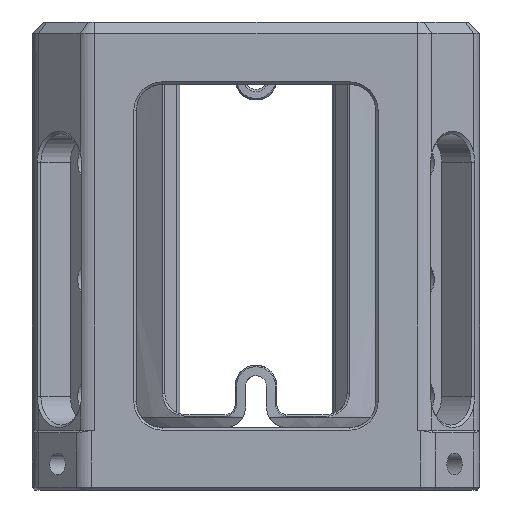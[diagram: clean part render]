
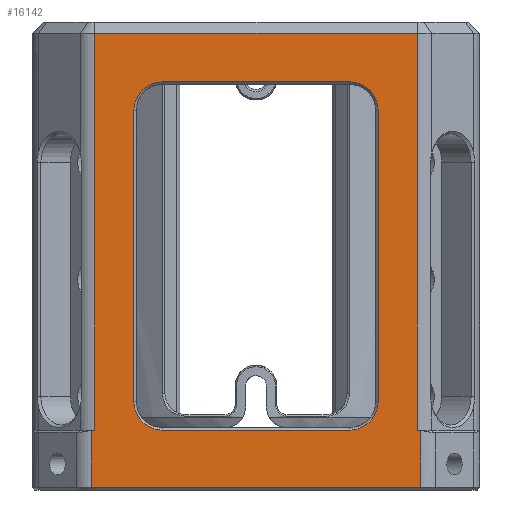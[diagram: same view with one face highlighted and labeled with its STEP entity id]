
A CAD part, left-side view. The second image highlights one B-rep face of the part: STEP entity #16142.
In plain terms, the highlighted planar face has unit normal (-1, 0, 0).
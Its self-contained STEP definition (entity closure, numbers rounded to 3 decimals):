
#30 = LINE ( 'NONE', #8312, #24721 ) ;
#765 = ORIENTED_EDGE ( 'NONE', *, *, #21148, .T. ) ;
#887 = CARTESIAN_POINT ( 'NONE',  ( -43., 31.004, -78.5 ) ) ;
#955 = CARTESIAN_POINT ( 'NONE',  ( -43., -18., -78.5 ) ) ;
#962 = VERTEX_POINT ( 'NONE', #34282 ) ;
#1241 = CARTESIAN_POINT ( 'NONE',  ( -43., -31.24, -78.5 ) ) ;
#1422 = DIRECTION ( 'NONE',  ( 1., 0., 0. ) ) ;
#1540 = DIRECTION ( 'NONE',  ( 1., 0., 0. ) ) ;
#1788 = EDGE_CURVE ( 'NONE', #8504, #31183, #30, .T. ) ;
#1792 = DIRECTION ( 'NONE',  ( 0., -1., 0. ) ) ;
#1911 = LINE ( 'NONE', #34812, #24460 ) ;
#1933 = CARTESIAN_POINT ( 'NONE',  ( -43., -31.004, -78.5 ) ) ;
#2233 = CARTESIAN_POINT ( 'NONE',  ( -43., -18., -17. ) ) ;
#2240 = CARTESIAN_POINT ( 'NONE',  ( -43., 18., -17. ) ) ;
#2445 = VERTEX_POINT ( 'NONE', #31313 ) ;
#2723 = CIRCLE ( 'NONE', #22838, 5.5 ) ;
#2805 = VECTOR ( 'NONE', #27424, 1000. ) ;
#3031 = CARTESIAN_POINT ( 'NONE',  ( -43., -31.711, -90. ) ) ;
#3350 = AXIS2_PLACEMENT_3D ( 'NONE', #15052, #1540, #9643 ) ;
#4364 = VERTEX_POINT ( 'NONE', #32753 ) ;
#4487 = PLANE ( 'NONE',  #32300 ) ;
#4998 = EDGE_CURVE ( 'NONE', #7402, #16219, #1911, .T. ) ;
#5210 = DIRECTION ( 'NONE',  ( 0., -1., 0. ) ) ;
#5593 = ORIENTED_EDGE ( 'NONE', *, *, #12194, .T. ) ;
#5714 = DIRECTION ( 'NONE',  ( 0., 0., 1. ) ) ;
#6397 = CARTESIAN_POINT ( 'NONE',  ( -43., 31.24, -78.5 ) ) ;
#7233 = CARTESIAN_POINT ( 'NONE',  ( -43., -18., -11.5 ) ) ;
#7269 = VERTEX_POINT ( 'NONE', #10762 ) ;
#7395 = B_SPLINE_CURVE_WITH_KNOTS ( 'NONE', 3,
 ( #9517, #26573, #1241, #1933 ),
 .UNSPECIFIED., .F., .F.,
 ( 4, 4 ),
 ( 0., 0.001 ),
 .UNSPECIFIED. ) ;
#7402 = VERTEX_POINT ( 'NONE', #20237 ) ;
#7632 = VECTOR ( 'NONE', #21051, 1000. ) ;
#7670 = DIRECTION ( 'NONE',  ( 0., -1., 0. ) ) ;
#7715 = VECTOR ( 'NONE', #23305, 1000. ) ;
#7966 = CARTESIAN_POINT ( 'NONE',  ( -43., 18., -78.5 ) ) ;
#8120 = ORIENTED_EDGE ( 'NONE', *, *, #31436, .F. ) ;
#8312 = CARTESIAN_POINT ( 'NONE',  ( -43., 18., -78.5 ) ) ;
#8368 = ORIENTED_EDGE ( 'NONE', *, *, #25038, .T. ) ;
#8504 = VERTEX_POINT ( 'NONE', #955 ) ;
#8746 = LINE ( 'NONE', #24752, #12286 ) ;
#8770 = CIRCLE ( 'NONE', #14535, 5.5 ) ;
#8860 = CARTESIAN_POINT ( 'NONE',  ( -43., 31.711, -89.5 ) ) ;
#8949 = ORIENTED_EDGE ( 'NONE', *, *, #23436, .T. ) ;
#9503 = VERTEX_POINT ( 'NONE', #32858 ) ;
#9517 = CARTESIAN_POINT ( 'NONE',  ( -43., -31.711, -78.562 ) ) ;
#9643 = DIRECTION ( 'NONE',  ( 0., -1., 0. ) ) ;
#9968 = ORIENTED_EDGE ( 'NONE', *, *, #17964, .T. ) ;
#10624 = DIRECTION ( 'NONE',  ( 0., 0., 1. ) ) ;
#10762 = CARTESIAN_POINT ( 'NONE',  ( -43., -31.004, -2.2 ) ) ;
#11052 = CARTESIAN_POINT ( 'NONE',  ( -43., 31.711, -90. ) ) ;
#11325 = ORIENTED_EDGE ( 'NONE', *, *, #1788, .T. ) ;
#11917 = LINE ( 'NONE', #22890, #24859 ) ;
#12088 = VERTEX_POINT ( 'NONE', #31146 ) ;
#12194 = EDGE_CURVE ( 'NONE', #31183, #962, #23714, .T. ) ;
#12286 = VECTOR ( 'NONE', #33723, 1000. ) ;
#12335 = VERTEX_POINT ( 'NONE', #16421 ) ;
#12337 = CARTESIAN_POINT ( 'NONE',  ( -43., 23.5, -17. ) ) ;
#12388 = DIRECTION ( 'NONE',  ( 0., -1., 0. ) ) ;
#12550 = CARTESIAN_POINT ( 'NONE',  ( -43., -31.711, -89.5 ) ) ;
#12759 = CARTESIAN_POINT ( 'NONE',  ( -43., -31.711, -90. ) ) ;
#12947 = FACE_OUTER_BOUND ( 'NONE', #16986, .T. ) ;
#13991 = CARTESIAN_POINT ( 'NONE',  ( -43., -31.004, -78.5 ) ) ;
#14093 = ORIENTED_EDGE ( 'NONE', *, *, #4998, .T. ) ;
#14522 = CARTESIAN_POINT ( 'NONE',  ( -43., 31.004, -78.5 ) ) ;
#14535 = AXIS2_PLACEMENT_3D ( 'NONE', #2233, #18607, #27068 ) ;
#14576 = VECTOR ( 'NONE', #10624, 1000. ) ;
#14709 = CARTESIAN_POINT ( 'NONE',  ( -43., 31.476, -78.521 ) ) ;
#14960 = EDGE_CURVE ( 'NONE', #17240, #28171, #24545, .T. ) ;
#15052 = CARTESIAN_POINT ( 'NONE',  ( -43., -18., -73. ) ) ;
#16142 = ADVANCED_FACE ( 'NONE', ( #18168, #12947 ), #4487, .T. ) ;
#16162 = EDGE_CURVE ( 'NONE', #16219, #12088, #8770, .T. ) ;
#16219 = VERTEX_POINT ( 'NONE', #7233 ) ;
#16363 = LINE ( 'NONE', #27319, #32906 ) ;
#16380 = ORIENTED_EDGE ( 'NONE', *, *, #27496, .T. ) ;
#16421 = CARTESIAN_POINT ( 'NONE',  ( -43., -23.5, -73. ) ) ;
#16911 = EDGE_CURVE ( 'NONE', #18383, #28171, #28478, .T. ) ;
#16986 = EDGE_LOOP ( 'NONE', ( #31261, #28176, #29672, #24884, #8949, #21144, #8120, #33889 ) ) ;
#17240 = VERTEX_POINT ( 'NONE', #8860 ) ;
#17685 = CARTESIAN_POINT ( 'NONE',  ( -43., -31.004, -270.726 ) ) ;
#17964 = EDGE_CURVE ( 'NONE', #2445, #7402, #2723, .T. ) ;
#18168 = FACE_BOUND ( 'NONE', #26812, .T. ) ;
#18383 = VERTEX_POINT ( 'NONE', #887 ) ;
#18607 = DIRECTION ( 'NONE',  ( 1., 0., 0. ) ) ;
#18720 = CARTESIAN_POINT ( 'NONE',  ( -43., -31.711, -89.5 ) ) ;
#18838 = CIRCLE ( 'NONE', #3350, 5.5 ) ;
#19141 = ORIENTED_EDGE ( 'NONE', *, *, #16162, .T. ) ;
#19266 = DIRECTION ( 'NONE',  ( 0., 1., 0. ) ) ;
#19831 = EDGE_CURVE ( 'NONE', #4364, #29680, #7395, .T. ) ;
#20237 = CARTESIAN_POINT ( 'NONE',  ( -43., 18., -11.5 ) ) ;
#21051 = DIRECTION ( 'NONE',  ( 0., -1., 0. ) ) ;
#21144 = ORIENTED_EDGE ( 'NONE', *, *, #28924, .T. ) ;
#21148 = EDGE_CURVE ( 'NONE', #12335, #8504, #18838, .T. ) ;
#21229 = LINE ( 'NONE', #18720, #7632 ) ;
#22838 = AXIS2_PLACEMENT_3D ( 'NONE', #2240, #1422, #12388 ) ;
#22890 = CARTESIAN_POINT ( 'NONE',  ( -43., 31.004, -270.726 ) ) ;
#22898 = LINE ( 'NONE', #17685, #14576 ) ;
#23305 = DIRECTION ( 'NONE',  ( 0., 0., 1. ) ) ;
#23436 = EDGE_CURVE ( 'NONE', #29680, #7269, #22898, .T. ) ;
#23593 = EDGE_CURVE ( 'NONE', #17240, #24368, #21229, .T. ) ;
#23714 = CIRCLE ( 'NONE', #33472, 5.5 ) ;
#24368 = VERTEX_POINT ( 'NONE', #12550 ) ;
#24460 = VECTOR ( 'NONE', #7670, 1000. ) ;
#24545 = LINE ( 'NONE', #11052, #2805 ) ;
#24721 = VECTOR ( 'NONE', #19266, 1000. ) ;
#24752 = CARTESIAN_POINT ( 'NONE',  ( -43., 31.004, -2.2 ) ) ;
#24859 = VECTOR ( 'NONE', #30623, 1000. ) ;
#24884 = ORIENTED_EDGE ( 'NONE', *, *, #19831, .T. ) ;
#25038 = EDGE_CURVE ( 'NONE', #962, #2445, #28867, .T. ) ;
#25659 = CARTESIAN_POINT ( 'NONE',  ( -43., 31.711, -78.562 ) ) ;
#26437 = DIRECTION ( 'NONE',  ( -1., 0., 0. ) ) ;
#26573 = CARTESIAN_POINT ( 'NONE',  ( -43., -31.476, -78.521 ) ) ;
#26812 = EDGE_LOOP ( 'NONE', ( #765, #11325, #5593, #8368, #9968, #14093, #19141, #16380 ) ) ;
#27068 = DIRECTION ( 'NONE',  ( 0., -1., 0. ) ) ;
#27319 = CARTESIAN_POINT ( 'NONE',  ( -43., -23.5, -73. ) ) ;
#27424 = DIRECTION ( 'NONE',  ( 0., 0., 1. ) ) ;
#27496 = EDGE_CURVE ( 'NONE', #12088, #12335, #16363, .T. ) ;
#27634 = EDGE_CURVE ( 'NONE', #24368, #4364, #30366, .T. ) ;
#28171 = VERTEX_POINT ( 'NONE', #30994 ) ;
#28176 = ORIENTED_EDGE ( 'NONE', *, *, #23593, .T. ) ;
#28478 = B_SPLINE_CURVE_WITH_KNOTS ( 'NONE', 3,
 ( #14522, #6397, #14709, #25659 ),
 .UNSPECIFIED., .F., .F.,
 ( 4, 4 ),
 ( 0., 0.001 ),
 .UNSPECIFIED. ) ;
#28867 = LINE ( 'NONE', #12337, #7715 ) ;
#28924 = EDGE_CURVE ( 'NONE', #7269, #9503, #8746, .T. ) ;
#29672 = ORIENTED_EDGE ( 'NONE', *, *, #27634, .T. ) ;
#29680 = VERTEX_POINT ( 'NONE', #13991 ) ;
#30366 = LINE ( 'NONE', #3031, #33475 ) ;
#30623 = DIRECTION ( 'NONE',  ( 0., 0., 1. ) ) ;
#30994 = CARTESIAN_POINT ( 'NONE',  ( -43., 31.711, -78.562 ) ) ;
#31146 = CARTESIAN_POINT ( 'NONE',  ( -43., -23.5, -17. ) ) ;
#31183 = VERTEX_POINT ( 'NONE', #7966 ) ;
#31261 = ORIENTED_EDGE ( 'NONE', *, *, #14960, .F. ) ;
#31313 = CARTESIAN_POINT ( 'NONE',  ( -43., 23.5, -17. ) ) ;
#31436 = EDGE_CURVE ( 'NONE', #18383, #9503, #11917, .T. ) ;
#32300 = AXIS2_PLACEMENT_3D ( 'NONE', #12759, #26437, #1792 ) ;
#32556 = DIRECTION ( 'NONE',  ( 1., 0., 0. ) ) ;
#32753 = CARTESIAN_POINT ( 'NONE',  ( -43., -31.711, -78.562 ) ) ;
#32858 = CARTESIAN_POINT ( 'NONE',  ( -43., 31.004, -2.2 ) ) ;
#32905 = CARTESIAN_POINT ( 'NONE',  ( -43., 18., -73. ) ) ;
#32906 = VECTOR ( 'NONE', #35029, 1000. ) ;
#33472 = AXIS2_PLACEMENT_3D ( 'NONE', #32905, #32556, #5210 ) ;
#33475 = VECTOR ( 'NONE', #5714, 1000. ) ;
#33723 = DIRECTION ( 'NONE',  ( 0., 1., 0. ) ) ;
#33889 = ORIENTED_EDGE ( 'NONE', *, *, #16911, .T. ) ;
#34282 = CARTESIAN_POINT ( 'NONE',  ( -43., 23.5, -73. ) ) ;
#34812 = CARTESIAN_POINT ( 'NONE',  ( -43., -18., -11.5 ) ) ;
#35029 = DIRECTION ( 'NONE',  ( 0., 0., -1. ) ) ;
